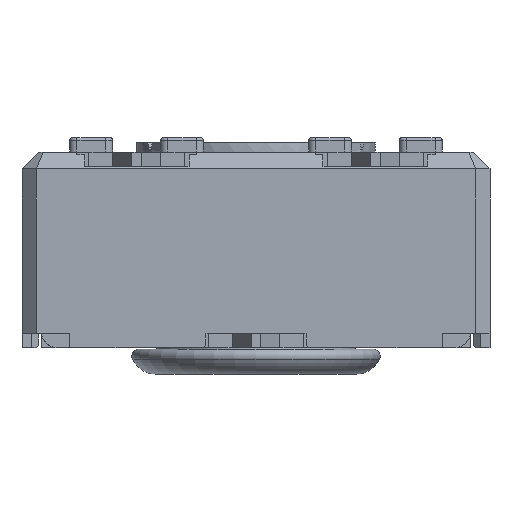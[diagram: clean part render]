
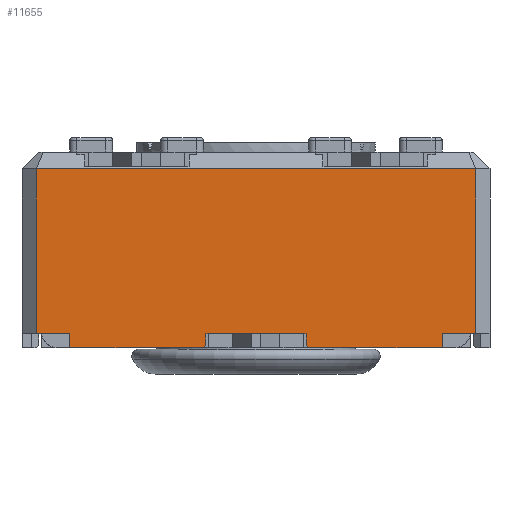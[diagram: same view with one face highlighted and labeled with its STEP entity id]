
A CAD part, front view. The second image highlights one B-rep face of the part: STEP entity #11655.
In plain terms, the highlighted planar face has unit normal (0, -1, 0).
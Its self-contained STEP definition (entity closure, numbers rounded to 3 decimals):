
#1006=FACE_OUTER_BOUND('',#1611,.T.);
#1611=EDGE_LOOP('',(#10312,#10313,#10314,#10315,#10316,#10317,#10318,#10319,
#10320,#10321,#10322,#10323,#10324,#10325,#10326,#10327));
#2178=LINE('',#16918,#3548);
#2279=LINE('',#17133,#3649);
#2285=LINE('',#17145,#3655);
#2293=LINE('',#17161,#3663);
#2299=LINE('',#17172,#3669);
#2464=LINE('',#17693,#3834);
#2470=LINE('',#17703,#3840);
#2473=LINE('',#17710,#3843);
#2486=LINE('',#17735,#3856);
#2542=LINE('',#17843,#3912);
#2544=LINE('',#17848,#3914);
#2546=LINE('',#17851,#3916);
#2548=LINE('',#17856,#3918);
#2734=LINE('',#18309,#4104);
#2977=LINE('',#18870,#4347);
#2979=LINE('',#18877,#4349);
#3548=VECTOR('',#13701,10.);
#3649=VECTOR('',#13880,10.);
#3655=VECTOR('',#13886,10.);
#3663=VECTOR('',#13896,10.);
#3669=VECTOR('',#13902,10.);
#3834=VECTOR('',#14375,10.);
#3840=VECTOR('',#14383,10.);
#3843=VECTOR('',#14390,10.);
#3856=VECTOR('',#14411,10.);
#3912=VECTOR('',#14511,10.);
#3914=VECTOR('',#14519,10.);
#3916=VECTOR('',#14523,10.);
#3918=VECTOR('',#14531,10.);
#4104=VECTOR('',#14963,10.);
#4347=VECTOR('',#15502,10.);
#4349=VECTOR('',#15514,10.);
#4841=VERTEX_POINT('',#16912);
#4842=VERTEX_POINT('',#16916);
#4917=VERTEX_POINT('',#17132);
#4922=VERTEX_POINT('',#17142);
#4923=VERTEX_POINT('',#17144);
#4929=VERTEX_POINT('',#17158);
#4930=VERTEX_POINT('',#17160);
#4935=VERTEX_POINT('',#17170);
#5082=VERTEX_POINT('',#17691);
#5083=VERTEX_POINT('',#17692);
#5086=VERTEX_POINT('',#17701);
#5087=VERTEX_POINT('',#17708);
#5088=VERTEX_POINT('',#17709);
#5096=VERTEX_POINT('',#17734);
#5245=VERTEX_POINT('',#18306);
#5246=VERTEX_POINT('',#18308);
#6103=EDGE_CURVE('',#4841,#4842,#2178,.T.);
#6210=EDGE_CURVE('',#4917,#4841,#2279,.T.);
#6216=EDGE_CURVE('',#4923,#4922,#2285,.T.);
#6224=EDGE_CURVE('',#4930,#4929,#2293,.T.);
#6230=EDGE_CURVE('',#4842,#4935,#2299,.T.);
#6472=EDGE_CURVE('',#5082,#5083,#2464,.T.);
#6478=EDGE_CURVE('',#5082,#5086,#2470,.T.);
#6481=EDGE_CURVE('',#5087,#5088,#2473,.T.);
#6494=EDGE_CURVE('',#5096,#5088,#2486,.T.);
#6550=EDGE_CURVE('',#4917,#5087,#2542,.T.);
#6552=EDGE_CURVE('',#4922,#5096,#2544,.T.);
#6554=EDGE_CURVE('',#4930,#5086,#2546,.T.);
#6556=EDGE_CURVE('',#4935,#5083,#2548,.T.);
#6778=EDGE_CURVE('',#5245,#5246,#2734,.T.);
#7057=EDGE_CURVE('',#5246,#4929,#2977,.T.);
#7059=EDGE_CURVE('',#5245,#4923,#2979,.T.);
#10312=ORIENTED_EDGE('',*,*,#6472,.F.);
#10313=ORIENTED_EDGE('',*,*,#6478,.T.);
#10314=ORIENTED_EDGE('',*,*,#6554,.F.);
#10315=ORIENTED_EDGE('',*,*,#6224,.T.);
#10316=ORIENTED_EDGE('',*,*,#7057,.F.);
#10317=ORIENTED_EDGE('',*,*,#6778,.F.);
#10318=ORIENTED_EDGE('',*,*,#7059,.T.);
#10319=ORIENTED_EDGE('',*,*,#6216,.T.);
#10320=ORIENTED_EDGE('',*,*,#6552,.T.);
#10321=ORIENTED_EDGE('',*,*,#6494,.T.);
#10322=ORIENTED_EDGE('',*,*,#6481,.F.);
#10323=ORIENTED_EDGE('',*,*,#6550,.F.);
#10324=ORIENTED_EDGE('',*,*,#6210,.T.);
#10325=ORIENTED_EDGE('',*,*,#6103,.T.);
#10326=ORIENTED_EDGE('',*,*,#6230,.T.);
#10327=ORIENTED_EDGE('',*,*,#6556,.T.);
#10880=PLANE('',#12515);
#11655=ADVANCED_FACE('',(#1006),#10880,.T.);
#12515=AXIS2_PLACEMENT_3D('',#18878,#15515,#15516);
#13701=DIRECTION('',(1.,0.,0.));
#13880=DIRECTION('',(1.,0.,0.));
#13886=DIRECTION('',(1.,0.,0.));
#13896=DIRECTION('',(1.,0.,0.));
#13902=DIRECTION('',(1.,0.,0.));
#14375=DIRECTION('',(-0.707,0.,0.707));
#14383=DIRECTION('',(1.,0.,0.));
#14390=DIRECTION('',(-0.707,0.,-0.707));
#14411=DIRECTION('',(1.,0.,0.));
#14511=DIRECTION('',(0.,0.,-1.));
#14519=DIRECTION('',(0.,0.,-1.));
#14523=DIRECTION('',(0.,0.,-1.));
#14531=DIRECTION('',(0.,0.,-1.));
#14963=DIRECTION('',(1.,0.,0.));
#15502=DIRECTION('',(0.,0.,-1.));
#15514=DIRECTION('',(0.,0.,-1.));
#15515=DIRECTION('center_axis',(0.,-1.,0.));
#15516=DIRECTION('ref_axis',(0.,0.,-1.));
#16912=CARTESIAN_POINT('',(-27.448,-17.99,-3.8));
#16916=CARTESIAN_POINT('',(-25.448,-17.99,-3.8));
#16918=CARTESIAN_POINT('',(-21.848,-17.99,-3.8));
#17132=CARTESIAN_POINT('',(-27.498,-17.99,-3.8));
#17133=CARTESIAN_POINT('',(-21.848,-17.99,-3.8));
#17142=CARTESIAN_POINT('',(-30.348,-17.99,-3.8));
#17144=CARTESIAN_POINT('',(-31.048,-17.99,-3.8));
#17145=CARTESIAN_POINT('',(-21.848,-17.99,-3.8));
#17158=CARTESIAN_POINT('',(-21.848,-17.99,-3.8));
#17160=CARTESIAN_POINT('',(-22.548,-17.99,-3.8));
#17161=CARTESIAN_POINT('',(-21.848,-17.99,-3.8));
#17170=CARTESIAN_POINT('',(-25.398,-17.99,-3.8));
#17172=CARTESIAN_POINT('',(-21.848,-17.99,-3.8));
#17691=CARTESIAN_POINT('',(-25.348,-17.99,-4.1));
#17692=CARTESIAN_POINT('',(-25.398,-17.99,-4.05));
#17693=CARTESIAN_POINT('',(-27.81,-17.99,-1.637));
#17701=CARTESIAN_POINT('',(-22.548,-17.99,-4.1));
#17703=CARTESIAN_POINT('',(-21.848,-17.99,-4.1));
#17708=CARTESIAN_POINT('',(-27.498,-17.99,-4.05));
#17709=CARTESIAN_POINT('',(-27.548,-17.99,-4.1));
#17710=CARTESIAN_POINT('',(-27.385,-17.99,-3.938));
#17734=CARTESIAN_POINT('',(-30.348,-17.99,-4.1));
#17735=CARTESIAN_POINT('',(-21.848,-17.99,-4.1));
#17843=CARTESIAN_POINT('',(-27.498,-17.99,-3.8));
#17848=CARTESIAN_POINT('',(-30.348,-17.99,-3.8));
#17851=CARTESIAN_POINT('',(-22.548,-17.99,-3.8));
#17856=CARTESIAN_POINT('',(-25.398,-17.99,-3.8));
#18306=CARTESIAN_POINT('',(-31.048,-17.99,-0.35));
#18308=CARTESIAN_POINT('',(-21.848,-17.99,-0.35));
#18309=CARTESIAN_POINT('',(-28.748,-17.99,-0.35));
#18870=CARTESIAN_POINT('',(-21.848,-17.99,0.));
#18877=CARTESIAN_POINT('',(-31.048,-17.99,0.));
#18878=CARTESIAN_POINT('Origin',(-31.048,-17.99,0.));
